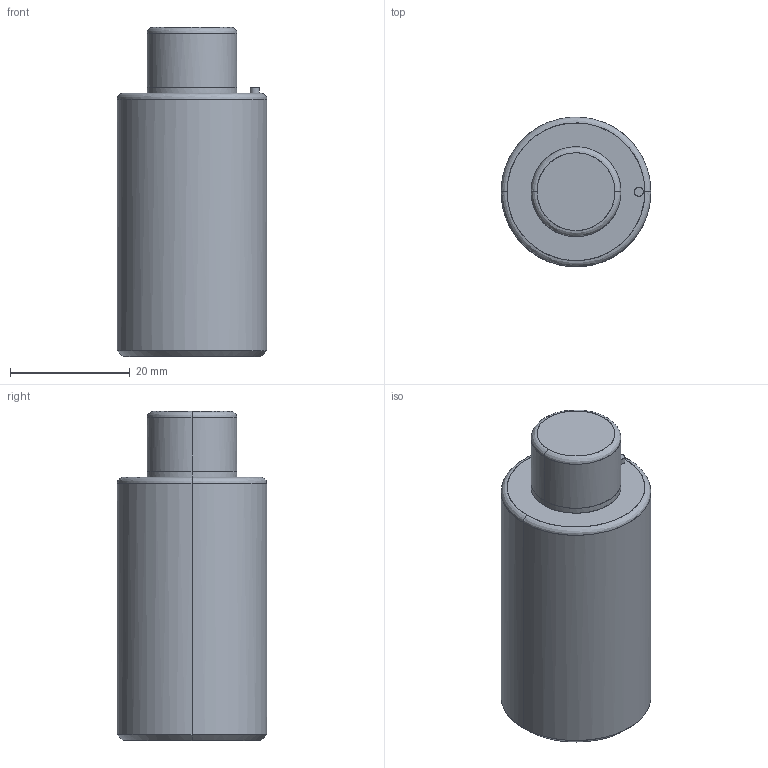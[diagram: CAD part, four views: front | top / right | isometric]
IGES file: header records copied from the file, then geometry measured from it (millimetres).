
Global section: file name: E:\UnigraphicsGraphicData\MISUMI_PRESS-PARTS\IGES\3d_mgsc25-10_04570_r00.igs; native system: NX V5.0; preprocessor: UGS NX IGES V5.0; author: MISUMI; date: 20110105.161435; units: millimetre
Bounding box: 25 x 24.95 x 55 mm (x, y, z)
Surface area: 5072.7 mm2 (no closed solid volume)
Topology: 0 solids, 0 shells, 24 faces, 136 edges, 134 vertices
Faces by surface type: bspline 24
